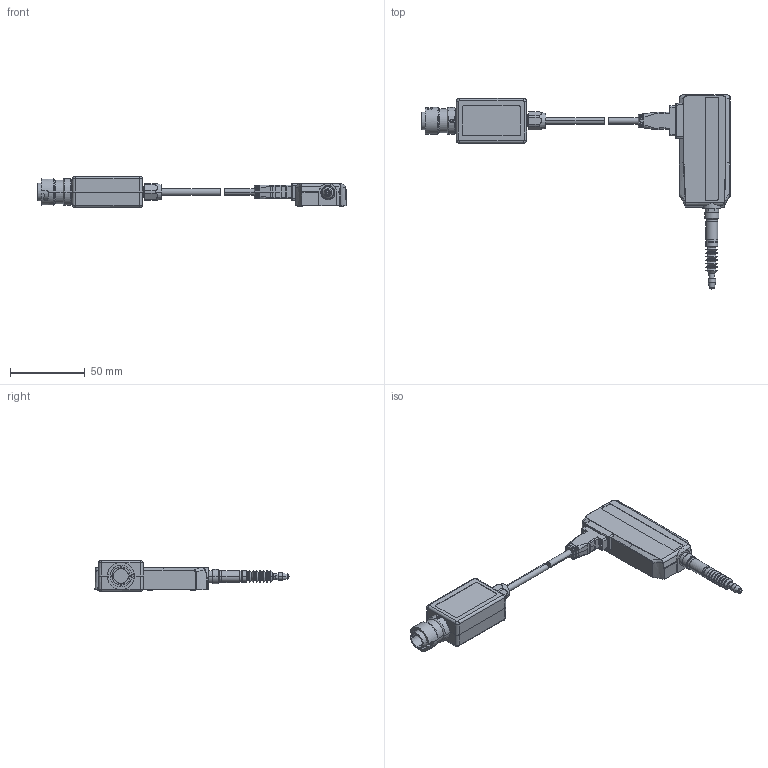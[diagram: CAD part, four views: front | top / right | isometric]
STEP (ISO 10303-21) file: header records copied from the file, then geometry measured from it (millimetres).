
FILE_DESCRIPTION(('Creo Elements/Direct Modeling STEP Export'),'2;1');
FILE_NAME('LGF-0110L-B.stp','2017-10-16T12:50:25',(''),(''),'Creo Elements/Direct Modeling STEP processor for AP214 (Solid Model)','Creo Elements/Direct Modeling 18.1B 29-Sep-2012 (C) Parametric Technology GmbH','');
FILE_SCHEMA(('AUTOMOTIVE_DESIGN { 1 0 10303 214 1 1 1 1 }'));
Length unit declared in the file: millimetre
Products named in the file (3): LGF-0110L-B_amp; LGF-0110L-B_gauge
Assembly tree (1 placements, depth 2):
  LGF-0110L-B_amp
    LGF-0110L-B_amp
  LGF-0110L-B_gauge
Bounding box: 205.89 x 129.5 x 20.4 mm (x, y, z)
Volume: 75508.5 mm3; surface area: 20949.3 mm2
Topology: 2 solids, 2 shells, 884 faces, 2258 edges, 1420 vertices
Faces by surface type: plane 380, cylinder 245, cone 90, bspline 79, torus 69, sphere 18, extrusion 3
Entity records: 41772 total; most frequent: CARTESIAN_POINT 21607, ORIENTED_EDGE 4508, DIRECTION 3817, EDGE_CURVE 2254, VERTEX_POINT 1420, AXIS2_PLACEMENT_3D 1354, VECTOR 1109, LINE 1106
